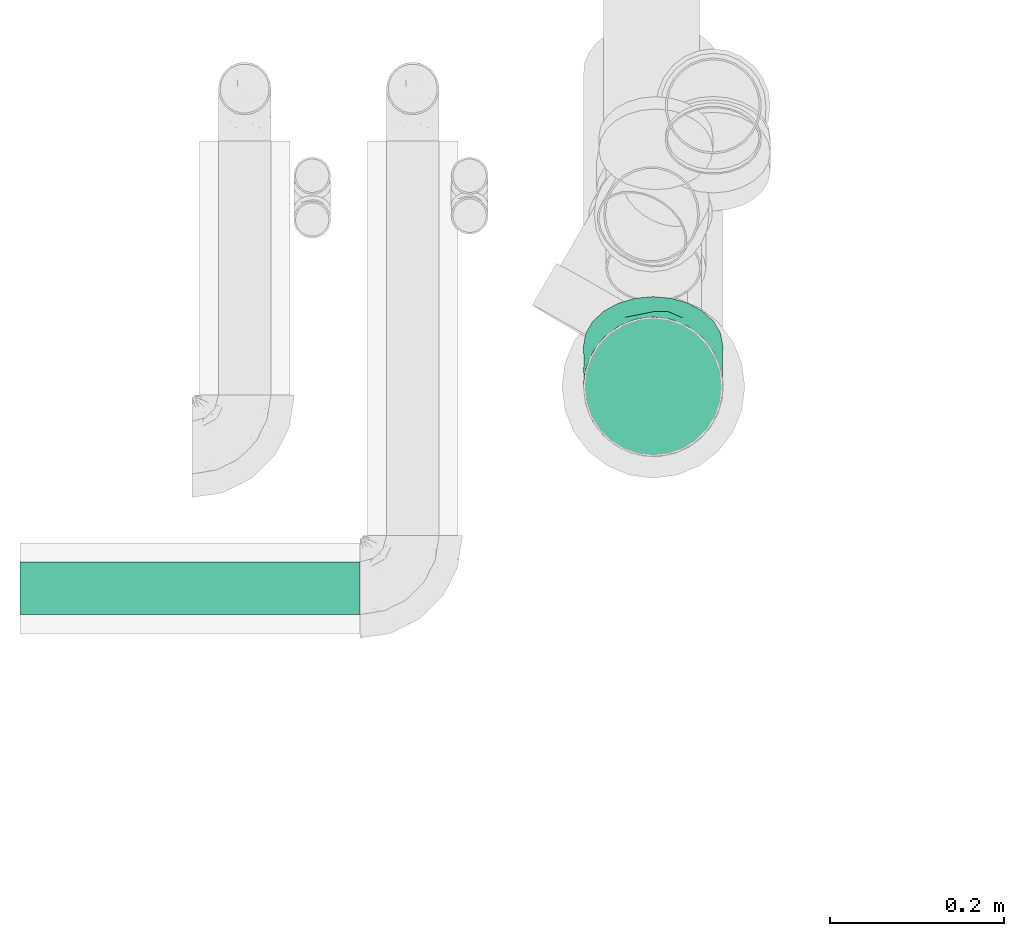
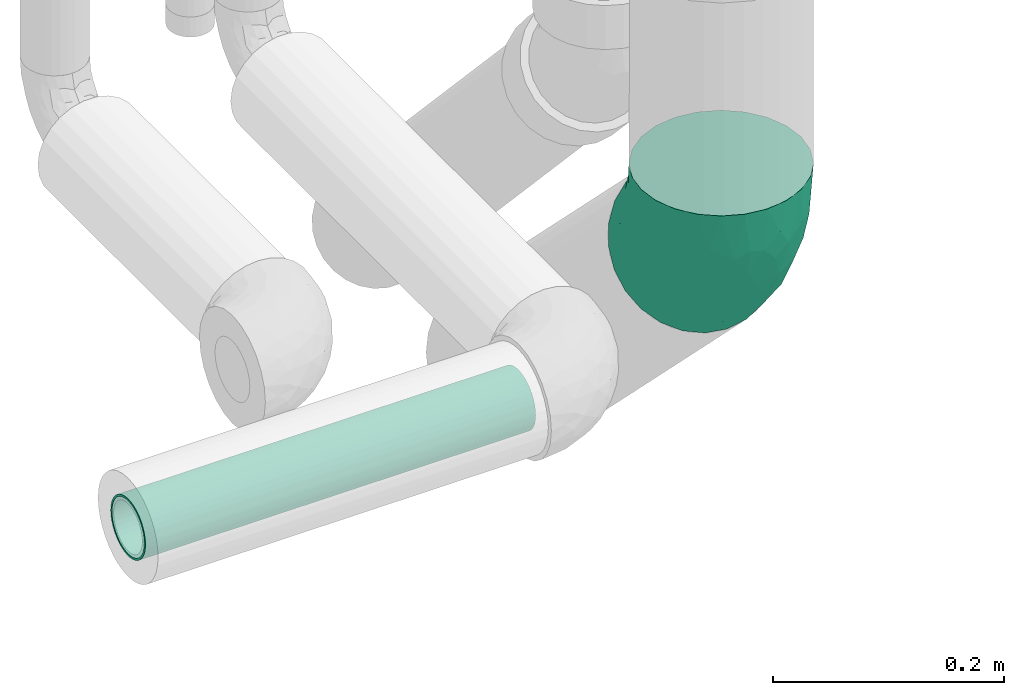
# One storey, part 53 of 78: 1 flow fitting, 1 flow segment.
"""IFC2X3 building model written with IfcOpenShell, lengths in millimetres."""

import ifcopenshell
import ifcopenshell.guid

model = None  # the IFC model being written
_history = None  # IfcOwnerHistory: only IFC2X3 demands one
_inside = {}  # id of a spatial element -> (the spatial element, [elements in it])
_under = {}  # id of a project, library or spatial element -> (it, [spatial elements below it])
_declared = {}  # id of a project -> (the project, [libraries it declares])
_typed = {}  # id of a type object -> (the type object, [elements of that type])
_made_of = {}  # id of a material, layer set ... -> (it, [elements and type objects made of it])


def new_model(schema):
    """Start an empty IFC model of exactly this schema.

    Asked for "IFC4X3", IfcOpenShell would pick the latest addendum, in which some entities
    have other attributes; the version numbers below select the first issue.
    IFC2X3 requires an IfcOwnerHistory on every rooted entity: one is made here for all.
    """
    global model, _history
    if schema == "IFC4X3":
        model = ifcopenshell.file(schema_version=(4, 3, 0, 0))
    else:
        model = ifcopenshell.file(schema=schema)
    _inside.clear()
    _under.clear()
    _declared.clear()
    _typed.clear()
    _made_of.clear()
    _history = None
    if model.schema == "IFC2X3":
        org = make("IfcOrganization", Name="unknown")
        user = make(
            "IfcPersonAndOrganization",
            ThePerson=make("IfcPerson", FamilyName="unknown"),
            TheOrganization=org,
        )
        app = make(
            "IfcApplication",
            ApplicationDeveloper=org,
            Version="unknown",
            ApplicationFullName="unknown",
            ApplicationIdentifier="unknown",
        )
        _history = make(
            "IfcOwnerHistory",
            OwningUser=user,
            OwningApplication=app,
            ChangeAction="ADDED",
            CreationDate=0,
        )
    return model


def make(cls, **values):
    """One entity of the class cls with the attributes given. An attribute that is None is left unset."""
    return model.create_entity(
        cls, **{name: value for name, value in values.items() if value is not None}
    )


def entity(cls, *values):
    """Any entity or typed value of the class cls, its attributes in the order of the schema. None: left unset."""
    e = model.create_entity(cls)
    for i, value in enumerate(values):
        if value is not None:
            e[i] = value
    return e


def rooted(cls, **values):
    """An entity with a GlobalId (a new one), such as an element, a storey or a relation."""
    return make(cls, GlobalId=ifcopenshell.guid.new(), OwnerHistory=_history, **values)


def si_unit(unit_type, name, prefix=None):
    """IfcSIUnit, for example si_unit("LENGTHUNIT", "METRE", prefix="MILLI")."""
    return make("IfcSIUnit", UnitType=unit_type, Prefix=prefix, Name=name)


def converted_unit(unit_type, name, factor, base, dimensions=None, offset=None):
    """IfcConversionBasedUnit, such as the inch: factor (a typed value) times the base unit."""
    return make(
        "IfcConversionBasedUnit"
        if offset is None
        else "IfcConversionBasedUnitWithOffset",
        ConversionOffset=offset,
        Dimensions=None
        if dimensions is None
        else entity("IfcDimensionalExponents", *dimensions),
        UnitType=unit_type,
        Name=name,
        ConversionFactor=make(
            "IfcMeasureWithUnit", ValueComponent=factor, UnitComponent=base
        ),
    )


def derived_unit(unit_type, elements):
    """IfcDerivedUnit: a product of units, each with its exponent."""
    return make(
        "IfcDerivedUnit",
        Elements=[
            make("IfcDerivedUnitElement", Unit=unit, Exponent=power)
            for unit, power in elements
        ],
        UnitType=unit_type,
    )


def assignment(units):
    """IfcUnitAssignment: the units of a project."""
    return None if units is None else make("IfcUnitAssignment", Units=units)


def point(xyz):
    """IfcCartesianPoint."""
    return None if xyz is None else make("IfcCartesianPoint", Coordinates=xyz)


def direction(xyz):
    """IfcDirection."""
    return None if xyz is None else make("IfcDirection", DirectionRatios=xyz)


def frame(location, z_axis=None, x_axis=None):
    """IfcAxis2Placement3D, a coordinate frame: its origin and axes. An axis left out is left unset."""
    return make(
        "IfcAxis2Placement3D",
        Location=point(location),
        Axis=direction(z_axis),
        RefDirection=direction(x_axis),
    )


def origin_with_axes():
    """The frame at (0, 0, 0) with the z axis (0, 0, 1) and the x axis (1, 0, 0) written out."""
    return frame((0.0, 0.0, 0.0), z_axis=(0.0, 0.0, 1.0), x_axis=(1.0, 0.0, 0.0))


def place(relative_to, where):
    """IfcLocalPlacement: puts the frame where relative to a parent placement (None: the world)."""
    return make(
        "IfcLocalPlacement", PlacementRelTo=relative_to, RelativePlacement=where
    )


def context(
    kind, dimensions, precision=None, world=None, true_north=None, identifier=None
):
    """IfcGeometricRepresentationContext, for example the 3D "Model" context."""
    return make(
        "IfcGeometricRepresentationContext",
        ContextIdentifier=identifier,
        ContextType=kind,
        CoordinateSpaceDimension=dimensions,
        Precision=precision,
        WorldCoordinateSystem=world,
        TrueNorth=true_north,
    )


def subcontext(parent, identifier, kind, view, scale=None):
    """IfcGeometricRepresentationSubContext, for example "Body" below "Model"."""
    return make(
        "IfcGeometricRepresentationSubContext",
        ContextIdentifier=identifier,
        ContextType=kind,
        ParentContext=parent,
        TargetScale=scale,
        TargetView=view,
    )


def project(units=None, contexts=None):
    """IfcProject with its units and contexts."""
    return rooted(
        "IfcProject",
        Name="project",
        RepresentationContexts=contexts,
        UnitsInContext=assignment(units),
    )


def spatial(cls, under=None, at=None, **own):
    """A site, building, storey or space (cls), placed at a placement, below another one or the project."""
    s = rooted(cls, ObjectPlacement=at, **own)
    if under is not None:
        _under.setdefault(under.id(), (under, []))[1].append(s)
    return s


def faces_of(points, faces, orient=None, outer=None):
    """IfcFace entities. A face is a list of loops; a loop is a list of indices into points, from 0.

    orient and outer hold one flag for each loop. By default every Orientation is true, the
    first loop of a face is its IfcFaceOuterBound and the others are IfcFaceBound.
    """
    made = []
    for i, loops in enumerate(faces):
        bounds = []
        for j, loop in enumerate(loops):
            is_outer = j == 0 if outer is None else outer[i][j]
            bounds.append(
                make(
                    "IfcFaceOuterBound" if is_outer else "IfcFaceBound",
                    Bound=make("IfcPolyLoop", Polygon=[points[k] for k in loop]),
                    Orientation=True if orient is None else orient[i][j],
                )
            )
        made.append(make("IfcFace", Bounds=bounds))
    return made


def open_shell(faces, orient=None, outer=None):
    """The faces of one IfcOpenShell. surface_model builds it on its shared points."""
    return ("IfcOpenShell", faces, orient, outer)


def faceted_brep(points, faces, orient=None, outer=None, voids=None):
    """IfcFacetedBrep: a solid bounded by flat faces; with voids (closed shells), ...WithVoids."""
    shared = [point(p) for p in points]
    hull = make("IfcClosedShell", CfsFaces=faces_of(shared, faces, orient, outer))
    if voids is None:
        return make("IfcFacetedBrep", Outer=hull)
    return make(
        "IfcFacetedBrepWithVoids",
        Outer=hull,
        Voids=[
            make(cls, CfsFaces=faces_of(shared, fs, o, b)) for cls, fs, o, b in voids
        ],
    )


def surface_model(cls, points, shells):
    """IfcFaceBasedSurfaceModel or IfcShellBasedSurfaceModel (cls): surfaces that need not close."""
    shared = [point(p) for p in points]
    made = [make(c, CfsFaces=faces_of(shared, fs, o, b)) for c, fs, o, b in shells]
    if cls == "IfcFaceBasedSurfaceModel":
        return make(cls, FbsmFaces=made)
    return make(cls, SbsmBoundary=made)


def shape(context_of_items, identifier, shape_type, items):
    """IfcShapeRepresentation: the items that make up one representation, for example the "Body"."""
    return make(
        "IfcShapeRepresentation",
        ContextOfItems=context_of_items,
        RepresentationIdentifier=identifier,
        RepresentationType=shape_type,
        Items=items,
    )


def source(mapping_origin, context_of_items, identifier, shape_type, items):
    """IfcRepresentationMap: a shape defined once, which mapped items show again and again."""
    return make(
        "IfcRepresentationMap",
        MappingOrigin=mapping_origin,
        MappedRepresentation=shape(context_of_items, identifier, shape_type, items),
    )


def transform(
    local_origin,
    x_axis=None,
    y_axis=None,
    z_axis=None,
    scale=None,
    scale2=None,
    scale3=None,
    uniform=True,
):
    """IfcCartesianTransformationOperator3D, or its non-uniform kind. x_axis, y_axis, z_axis: its Axis1, 2, 3."""
    if uniform:
        return make(
            "IfcCartesianTransformationOperator3D",
            Axis1=direction(x_axis),
            Axis2=direction(y_axis),
            LocalOrigin=point(local_origin),
            Scale=scale,
            Axis3=direction(z_axis),
        )
    return make(
        "IfcCartesianTransformationOperator3DnonUniform",
        Axis1=direction(x_axis),
        Axis2=direction(y_axis),
        LocalOrigin=point(local_origin),
        Scale=scale,
        Axis3=direction(z_axis),
        Scale2=scale2,
        Scale3=scale3,
    )


def mapped(mapping_source, mapping_target):
    """IfcMappedItem: shows the shape of a source again, moved by a transform."""
    return make(
        "IfcMappedItem", MappingSource=mapping_source, MappingTarget=mapping_target
    )


def made_of(thing, what):
    """Note that an element or type object is made of a material, layer set ...; save() writes the relation."""
    if what is not None:
        _made_of.setdefault(what.id(), (what, []))[1].append(thing)
    return thing


def type_object(cls, material=None, **own):
    """A type object (cls), such as IfcWallType, which elements share."""
    return made_of(rooted(cls, **own), material)


def element(
    cls,
    number,
    at=None,
    inside=None,
    cuts=None,
    type_object=None,
    material=None,
    context=None,
    identifier="Body",
    shape_type=None,
    held_by="IfcProductDefinitionShape",
    body=None,
    shapes=None,
    **own,
):
    """One element of the class cls, such as IfcWall. Its Tag is "e" and its number.

    at: its placement. inside: the storey or other place that contains it. cuts: it is an
    opening in that element (IfcRelVoidsElement). A single representation is given by context,
    identifier, shape_type and body (its items); several are given by shapes. held_by: the class
    of the entity that holds the representations. save() writes the other relations.
    """
    e = rooted(cls, Tag="e%d" % number, ObjectPlacement=at, **own)
    if body is not None:
        shapes = [shape(context, identifier, shape_type, body)]
    if shapes is not None:
        e.Representation = make(held_by, Representations=shapes)
    if inside is not None:
        _inside.setdefault(inside.id(), (inside, []))[1].append(e)
    if cuts is not None:
        rooted(
            "IfcRelVoidsElement", RelatingBuildingElement=cuts, RelatedOpeningElement=e
        )
    if type_object is not None:
        _typed.setdefault(type_object.id(), (type_object, []))[1].append(e)
    return made_of(e, material)


def aggregate(whole, parts):
    """IfcRelAggregates: a whole, such as a stair, and the parts it consists of."""
    return rooted("IfcRelAggregates", RelatingObject=whole, RelatedObjects=parts)


def save(model, path):
    """Write the relations noted so far, then the file.

    IfcRelAggregates (storeys below a building ...), IfcRelContainedInSpatialStructure (elements
    in a storey), IfcRelDefinesByType, IfcRelAssociatesMaterial and IfcRelDeclares: one each for
    every whole, place, type object, material and project.
    """
    for whole, parts in _under.values():
        aggregate(whole, parts)
    for where, things in _inside.values():
        rooted(
            "IfcRelContainedInSpatialStructure",
            RelatedElements=things,
            RelatingStructure=where,
        )
    for kind, things in _typed.values():
        rooted("IfcRelDefinesByType", RelatedObjects=things, RelatingType=kind)
    for what, things in _made_of.values():
        rooted("IfcRelAssociatesMaterial", RelatedObjects=things, RelatingMaterial=what)
    for by, libraries in _declared.values():
        rooted("IfcRelDeclares", RelatingContext=by, RelatedDefinitions=libraries)
    model.write(path)


model = new_model("IFC2X3")

# Units and contexts
model_context = context("Model", 3, precision=0.01, world=frame((0.0, 4.29681676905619e-09, 0.0)), true_north=direction((4.01073788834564e-13, 1.0)))
plan_context = context("Plan", 3, precision=0.01, world=frame((0.0, 4.29681676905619e-09, 0.0)), true_north=direction((4.01073788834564e-13, 1.0)))
body_context = subcontext(model_context, "Body", "Model", "MODEL_VIEW")
ifc_project = project(units=[converted_unit("PLANEANGLEUNIT", "DEGREE", entity("IfcPositiveLengthMeasure", 0.0174532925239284), si_unit("PLANEANGLEUNIT", "RADIAN"), dimensions=[0, 0, 0, 0, 0, 0, 0]), si_unit("AREAUNIT", "SQUARE_METRE"), si_unit("LENGTHUNIT", "METRE", prefix="MILLI"), si_unit("MASSUNIT", "GRAM", prefix="KILO"), si_unit("POWERUNIT", "WATT"), si_unit("PRESSUREUNIT", "PASCAL"), si_unit("FORCEUNIT", "NEWTON", prefix="KILO"), si_unit("ELECTRICVOLTAGEUNIT", "VOLT"), si_unit("ELECTRICCURRENTUNIT", "AMPERE"), si_unit("THERMODYNAMICTEMPERATUREUNIT", "DEGREE_CELSIUS"), si_unit("TIMEUNIT", "SECOND"), si_unit("VOLUMEUNIT", "CUBIC_METRE"), derived_unit("LINEARVELOCITYUNIT", [(si_unit("LENGTHUNIT", "METRE"), 1), (si_unit("TIMEUNIT", "SECOND"), -1)]), derived_unit("VOLUMETRICFLOWRATEUNIT", [(si_unit("VOLUMEUNIT", "CUBIC_METRE"), 1), (si_unit("TIMEUNIT", "SECOND"), -1)]), derived_unit("THERMALTRANSMITTANCEUNIT", [(si_unit("POWERUNIT", "WATT"), 1), (si_unit("THERMODYNAMICTEMPERATUREUNIT", "KELVIN"), -1), (si_unit("AREAUNIT", "SQUARE_METRE"), -1)]), derived_unit("SOUNDPRESSUREUNIT", [(si_unit("PRESSUREUNIT", "PASCAL"), 1)])], contexts=[model_context, plan_context])

# Site, building, storey
site_placement = place(None, frame((0.0, -4.29681676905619e-09, 0.0), z_axis=(0.0, 0.0, 1.0), x_axis=(1.0, 0.0, 0.0)))
site = spatial("IfcSite", under=ifc_project, at=site_placement, Name="ENGM", CompositionType="ELEMENT")
building_placement = place(site_placement, frame((0.0, 4.29681676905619e-09, 0.0), z_axis=(0.0, 0.0, 1.0), x_axis=(1.0, 0.0, 0.0)))
building = spatial("IfcBuilding", under=site, at=building_placement, Name="TH", CompositionType="ELEMENT")
storey_placement = place(building_placement, frame((0.0, 0.0, 205200.0), z_axis=(0.0, 0.0, 1.0), x_axis=(1.0, 0.0, 0.0)))
storey = spatial("IfcBuildingStorey", under=building, at=storey_placement, Name="Nivå D + 1,2 m", CompositionType="ELEMENT", Elevation=205200.0)

# Flow fitting
pipe_fitting_type = type_object("IfcPipeFittingType", Name="magi_pipe_fe_elbow_short_001", PredefinedType="BEND")
shared_shape = source(origin_with_axes(), body_context, "Body", "SurfaceModel", [
    surface_model("IfcShellBasedSurfaceModel", [(-66.26624, 20.70552, -77.27406), (-66.26624, 0.0, -80.0), (-66.26624, 56.56854, -56.56854), (-66.26624, 40.0, -69.28203), (-66.26624, 77.27406, -20.70552), (-66.26624, 69.28203, -40.0), (-66.26624, -56.56854, -56.56854), (-66.26624, -80.0, 0.0), (-66.26624, 69.28203, 40.0), (-66.26624, -40.0, -69.28203), (-66.26624, -20.70552, -77.27406), (-66.26624, -77.27406, -20.70552), (-66.26624, -69.28203, -40.0), (-66.26624, 80.0, 0.0), (-66.26624, 77.27406, 20.70552), (-66.26624, 20.70552, 77.27406), (-66.26624, 40.0, 69.28203), (-66.26624, 56.56854, 56.56854), (-66.26624, -56.56854, 56.56854), (-66.26624, -77.27406, 20.70552), (-66.26624, -69.28203, 40.0), (-66.26624, -40.0, 69.28203), (-66.26624, -20.70552, 77.27406), (-66.26624, 0.0, 80.0), (6.86466, 86.85673, -56.56854), (46.86127, 46.85334, -80.0), (32.2215, 61.4956, -77.27406), (18.57939, 75.14, -69.28203), (-2.12438, 95.84728, 40.0), (103.42503, -9.71999, 0.0), (-2.12438, 95.84728, -40.0), (-9.70248, 103.42667, 0.0), (75.14315, 18.56667, -69.28203), (95.84692, -2.1406, -40.0), (86.85789, 6.84995, -56.56854), (61.50105, 32.21108, -77.27406), (101.49767, -7.7923, -20.70552), (-7.77512, 101.49898, -20.70552), (-7.77512, 101.49898, 20.70552), (32.2215, 61.4956, 77.27406), (18.57939, 75.14, 69.28203), (6.86466, 86.85673, 56.56854), (61.50105, 32.21108, 77.27406), (86.85789, 6.84995, 56.56854), (95.84692, -2.1406, 40.0), (101.49767, -7.7923, 20.70552), (75.14315, 18.56667, 69.28203), (46.86127, 46.85334, 80.0), (20.53681, -49.58618, 43.94331), (-18.88675, -45.75735, 61.51834), (-28.10464, -61.70386, 46.68669), (-34.33255, -76.37217, 15.31939), (-19.44954, -75.38946, 0.0), (42.93317, 1.14101, 72.97983), (-31.16765, -29.54888, 72.97983), (8.44424, -20.38863, 71.81637), (-32.21677, 32.65539, 74.87177), (-25.20915, -8.32449, 78.89352), (-7.39032, 17.84394, 79.76448), (-39.53021, 10.89558, 79.54528), (20.25076, 35.65471, 79.54528), (63.50219, -23.76361, 46.68669), (-15.36857, -69.57894, 27.42235), (-47.47569, 49.07164, 64.37832), (-4.71647, -70.89326, 12.88084), (23.62796, -58.07175, 25.36198), (-37.01677, 66.40504, 50.62905), (-32.89329, 79.42093, 33.20512), (-30.74766, 86.28599, 16.99014), (14.08434, -34.00667, 62.45988), (45.70867, -19.00425, 61.51834), (-22.57366, 54.50416, 65.58251), (69.34349, -36.42469, 14.42113), (60.06371, -38.33761, 27.42235), (45.58305, -51.15245, 12.93783), (-1.12273, 68.26936, 64.37832), (23.71287, 11.93725, 78.89352), (1.50323, 47.12054, 74.81223), (-13.7887, 73.1962, 54.49757), (-35.65469, 86.08834, 0.0), (25.5684, -61.73498, 0.0), (67.05795, -39.56117, 0.0), (-25.20915, -8.32449, -78.89352), (60.06371, -38.33761, -27.42235), (78.27755, -29.73313, -15.31939), (53.46019, -46.79859, -12.88084), (23.71287, 11.93725, -78.89352), (-39.53021, 10.89558, -79.54528), (-42.00225, 61.51117, -54.49758), (-32.89329, 79.42093, -33.20512), (45.70867, -19.00425, -61.51834), (-20.77446, 73.13202, -50.62905), (-39.26452, 82.7586, -16.99014), (-0.30627, 45.87157, -74.87177), (-23.28343, -74.78743, -14.42113), (-15.36857, -69.57894, -27.42235), (3.93237, -68.40266, -12.93782), (-34.37947, 32.25922, -74.81223), (-18.88675, -45.75735, -61.51834), (-28.10464, -61.70386, -46.68669), (8.44424, -20.38863, -71.81637), (-22.57367, 54.50416, -65.58251), (-47.47569, 49.07164, -64.37832), (24.35054, -57.77248, -25.36198), (-7.39032, 17.84393, -79.76448), (14.08434, -34.00668, -62.45988), (20.53681, -49.58619, -43.94331), (-31.16765, -29.54888, -72.97983), (-1.12273, 68.26935, -64.37832), (20.25076, 35.65471, -79.54528), (42.93317, 1.14101, -72.97983), (63.50219, -23.76361, -46.68669)], [open_shell([[[0, 1, 2]], [[3, 0, 2]], [[4, 5, 2]], [[6, 2, 1]], [[2, 7, 8]], [[9, 6, 10]], [[6, 1, 10]], [[11, 7, 12]], [[6, 12, 7]], [[6, 7, 2]], [[13, 4, 2]], [[8, 14, 13]], [[7, 15, 8]], [[8, 15, 16]], [[17, 8, 16]], [[18, 15, 7]], [[19, 20, 7]], [[7, 20, 18]], [[21, 22, 18]], [[22, 15, 18]], [[15, 22, 23]], [[8, 13, 2]], [[24, 25, 26]], [[24, 26, 27]], [[28, 29, 24]], [[25, 24, 29]], [[24, 30, 31]], [[32, 33, 34]], [[29, 32, 35]], [[33, 29, 36]], [[29, 33, 32]], [[35, 25, 29]], [[30, 37, 31]], [[31, 38, 28]], [[28, 39, 29]], [[40, 39, 28]], [[40, 28, 41]], [[42, 29, 39]], [[29, 43, 44]], [[45, 29, 44]], [[46, 43, 29]], [[42, 46, 29]], [[47, 42, 39]], [[31, 28, 24]], [[48, 49, 50]], [[51, 7, 52]], [[46, 42, 53]], [[21, 18, 49]], [[54, 49, 55]], [[50, 49, 18]], [[16, 15, 56]], [[22, 21, 54]], [[57, 58, 59]], [[47, 39, 60]], [[44, 43, 61]], [[23, 22, 57]], [[19, 51, 62]], [[17, 16, 63]], [[62, 64, 65]], [[8, 66, 67]], [[15, 23, 59]], [[62, 51, 64]], [[18, 20, 50]], [[67, 68, 14]], [[19, 62, 20]], [[13, 14, 68]], [[14, 8, 67]], [[69, 48, 70]], [[63, 56, 71]], [[72, 73, 74]], [[48, 62, 65]], [[40, 41, 75]], [[43, 46, 70]], [[63, 66, 17]], [[45, 44, 73]], [[47, 60, 76]], [[48, 61, 70]], [[43, 70, 61]], [[20, 62, 50]], [[70, 46, 53]], [[48, 50, 62]], [[29, 45, 72]], [[73, 44, 61]], [[58, 60, 77]], [[28, 38, 67]], [[67, 78, 28]], [[61, 48, 73]], [[67, 38, 68]], [[8, 17, 66]], [[79, 68, 31]], [[53, 76, 55]], [[71, 56, 77]], [[76, 57, 55]], [[40, 77, 39]], [[57, 76, 58]], [[67, 66, 78]], [[42, 47, 76]], [[54, 57, 22]], [[59, 56, 15]], [[73, 65, 74]], [[71, 75, 78]], [[49, 69, 55]], [[77, 40, 75]], [[58, 77, 56]], [[49, 54, 21]], [[57, 54, 55]], [[76, 53, 42]], [[70, 53, 55]], [[57, 59, 23]], [[56, 59, 58]], [[77, 60, 39]], [[76, 60, 58]], [[56, 63, 16]], [[66, 63, 71]], [[78, 75, 41]], [[77, 75, 71]], [[28, 78, 41]], [[71, 78, 66]], [[7, 51, 19]], [[64, 51, 52]], [[52, 80, 64]], [[80, 74, 65]], [[80, 65, 64]], [[73, 48, 65]], [[80, 81, 74]], [[72, 74, 81]], [[29, 72, 81]], [[45, 73, 72]], [[48, 69, 49]], [[70, 55, 69]], [[31, 68, 38]], [[68, 79, 13]], [[82, 10, 1]], [[83, 84, 85]], [[25, 35, 86]], [[0, 87, 1]], [[88, 5, 89]], [[32, 34, 90]], [[91, 88, 89]], [[36, 83, 33]], [[4, 92, 89]], [[27, 26, 93]], [[94, 95, 96]], [[3, 97, 0]], [[6, 98, 99]], [[82, 86, 100]], [[7, 11, 94]], [[101, 102, 88]], [[103, 96, 95]], [[104, 87, 97]], [[6, 9, 98]], [[105, 106, 98]], [[86, 82, 104]], [[95, 11, 12]], [[107, 9, 10]], [[6, 99, 12]], [[37, 30, 89]], [[30, 24, 91]], [[13, 79, 92]], [[108, 91, 24]], [[31, 37, 92]], [[109, 93, 26]], [[24, 27, 108]], [[89, 5, 4]], [[30, 91, 89]], [[107, 98, 9]], [[101, 108, 93]], [[87, 82, 1]], [[101, 93, 97]], [[2, 102, 3]], [[36, 84, 83]], [[109, 26, 25]], [[110, 35, 32]], [[83, 85, 103]], [[34, 111, 90]], [[100, 110, 90]], [[34, 33, 111]], [[104, 109, 86]], [[111, 106, 90]], [[110, 86, 35]], [[81, 84, 29]], [[106, 111, 83]], [[107, 82, 100]], [[83, 103, 106]], [[99, 106, 95]], [[90, 105, 100]], [[106, 99, 98]], [[37, 89, 92]], [[95, 12, 99]], [[33, 83, 111]], [[97, 3, 102]], [[104, 97, 93]], [[82, 107, 10]], [[98, 107, 100]], [[90, 110, 32]], [[86, 110, 100]], [[97, 87, 0]], [[82, 87, 104]], [[86, 109, 25]], [[93, 109, 104]], [[88, 102, 2]], [[97, 102, 101]], [[5, 88, 2]], [[101, 88, 91]], [[93, 108, 27]], [[91, 108, 101]], [[29, 84, 36]], [[85, 84, 81]], [[81, 80, 85]], [[80, 96, 103]], [[80, 103, 85]], [[95, 106, 103]], [[80, 52, 96]], [[94, 96, 52]], [[7, 94, 52]], [[11, 95, 94]], [[106, 105, 90]], [[98, 100, 105]], [[13, 92, 4]], [[92, 79, 31]]])]),
])
flow_fitting_placement = place(storey_placement, frame((895838.84516, 479825.62017, 4324.25988999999), z_axis=(0.999999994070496, -7.6999998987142e-05, -7.70065445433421e-05), x_axis=(-7.6999999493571e-05, 8.4999999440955e-05, -0.999999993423)))
element("IfcFlowFitting", 1, at=flow_fitting_placement, inside=storey, type_object=pipe_fitting_type, Name="magi_pipe_fe_elbow_short_001", context=body_context, shape_type="MappedRepresentation", body=[
    mapped(shared_shape, transform((0.0, 0.0, 0.0), scale=1.0)),
])

# Flow segment
pipe_segment_type = type_object("IfcPipeSegmentType", Name="Stålrør normaltykke", PredefinedType="RIGIDSEGMENT")
flow_segment_placement = place(storey_placement, frame((895502.41931, 479594.31945, 4400.0), z_axis=(0.0, 0.0, 1.0), x_axis=(-1.0, 0.0, 0.0)))
element("IfcFlowSegment", 2, at=flow_segment_placement, inside=storey, type_object=pipe_segment_type, Name="Stålrør normaltykke", context=body_context, shape_type="Brep", body=[
    faceted_brep([(390.513141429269, 28.1, 0.0), (390.513141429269, 27.673097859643, -4.87951379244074), (0.0, 27.673097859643, -4.87951379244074), (0.0, 28.1, 0.0), (390.513141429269, 26.405362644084, -9.61076602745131), (0.0, 26.405362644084, -9.61076602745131), (390.513141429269, 24.3353138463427, -14.05), (0.0, 24.3353138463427, -14.05), (390.513141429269, 21.5258488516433, -18.0623318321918), (0.0, 21.5258488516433, -18.0623318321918), (390.513141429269, 18.0623318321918, -21.5258488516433), (0.0, 18.0623318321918, -21.5258488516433), (390.513141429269, 14.05, -24.3353138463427), (0.0, 14.05, -24.3353138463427), (390.513141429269, 9.61076602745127, -26.405362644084), (0.0, 9.61076602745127, -26.405362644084), (390.513141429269, 4.87951379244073, -27.6730978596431), (0.0, 4.87951379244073, -27.6730978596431), (390.513141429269, -5.16188625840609e-15, -28.1), (0.0, -5.16188625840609e-15, -28.1), (390.513141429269, -4.87951379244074, -27.673097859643), (0.0, -4.87951379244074, -27.673097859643), (390.513141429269, -9.61076602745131, -26.405362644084), (0.0, -9.61076602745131, -26.405362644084), (390.513141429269, -14.05, -24.3353138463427), (0.0, -14.05, -24.3353138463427), (390.513141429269, -18.0623318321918, -21.5258488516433), (0.0, -18.0623318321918, -21.5258488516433), (390.513141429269, -21.5258488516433, -18.0623318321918), (0.0, -21.5258488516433, -18.0623318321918), (390.513141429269, -24.3353138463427, -14.05), (0.0, -24.3353138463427, -14.05), (390.513141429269, -26.405362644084, -9.61076602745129), (0.0, -26.405362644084, -9.61076602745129), (390.513141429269, -27.6730978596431, -4.87951379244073), (0.0, -27.6730978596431, -4.87951379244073), (390.513141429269, -28.1, 3.44125750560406e-15), (0.0, -28.1, 3.44125750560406e-15), (390.513141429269, -27.673097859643, 4.87951379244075), (0.0, -27.673097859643, 4.87951379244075), (390.513141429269, -26.405362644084, 9.6107660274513), (0.0, -26.405362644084, 9.6107660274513), (390.513141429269, -24.3353138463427, 14.05), (0.0, -24.3353138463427, 14.05), (390.513141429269, -21.5258488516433, 18.0623318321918), (0.0, -21.5258488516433, 18.0623318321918), (390.513141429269, -18.0623318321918, 21.5258488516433), (0.0, -18.0623318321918, 21.5258488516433), (390.513141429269, -14.05, 24.3353138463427), (0.0, -14.05, 24.3353138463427), (390.513141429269, -9.61076602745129, 26.405362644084), (0.0, -9.61076602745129, 26.405362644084), (390.513141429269, -4.87951379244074, 27.673097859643), (0.0, -4.87951379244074, 27.673097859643), (390.513141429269, 1.72062875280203e-15, 28.1), (0.0, 1.72062875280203e-15, 28.1), (390.513141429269, 4.87951379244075, 27.673097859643), (0.0, 4.87951379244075, 27.673097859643), (390.513141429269, 9.61076602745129, 26.405362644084), (0.0, 9.61076602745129, 26.405362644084), (390.513141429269, 14.05, 24.3353138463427), (0.0, 14.05, 24.3353138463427), (390.513141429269, 18.0623318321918, 21.5258488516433), (0.0, 18.0623318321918, 21.5258488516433), (390.513141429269, 21.5258488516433, 18.0623318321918), (0.0, 21.5258488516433, 18.0623318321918), (390.513141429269, 24.3353138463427, 14.05), (0.0, 24.3353138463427, 14.05), (390.513141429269, 26.405362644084, 9.61076602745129), (0.0, 26.405362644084, 9.61076602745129), (390.513141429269, 27.673097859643, 4.87951379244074), (0.0, 27.673097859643, 4.87951379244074), (390.513141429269, 29.6427133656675, -5.2268101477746), (390.513141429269, 30.1, 0.0), (0.0, 30.1, 0.0), (0.0, 29.6427133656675, -5.2268101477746), (390.513141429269, 29.6427133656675, 5.2268101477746), (0.0, 29.6427133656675, 5.2268101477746), (390.513141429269, 28.2847478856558, 10.2948063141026), (0.0, 28.2847478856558, 10.2948063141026), (390.513141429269, 26.0673646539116, 15.05), (0.0, 26.0673646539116, 15.05), (390.513141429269, 23.0579377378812, 19.3479070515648), (0.0, 23.0579377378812, 19.3479070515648), (390.513141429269, 19.3479070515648, 23.0579377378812), (0.0, 19.3479070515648, 23.0579377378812), (390.513141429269, 15.05, 26.0673646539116), (0.0, 15.05, 26.0673646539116), (390.513141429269, 10.2948063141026, 28.2847478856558), (0.0, 10.2948063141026, 28.2847478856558), (390.513141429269, 5.22681014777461, 29.6427133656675), (0.0, 5.22681014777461, 29.6427133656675), (390.513141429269, 1.84309343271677e-15, 30.1), (0.0, 1.84309343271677e-15, 30.1), (390.513141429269, -5.2268101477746, 29.6427133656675), (0.0, -5.2268101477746, 29.6427133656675), (390.513141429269, -10.2948063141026, 28.2847478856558), (0.0, -10.2948063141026, 28.2847478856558), (390.513141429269, -15.05, 26.0673646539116), (0.0, -15.05, 26.0673646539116), (390.513141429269, -19.3479070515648, 23.0579377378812), (0.0, -19.3479070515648, 23.0579377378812), (390.513141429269, -23.0579377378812, 19.3479070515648), (0.0, -23.0579377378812, 19.3479070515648), (390.513141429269, -26.0673646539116, 15.05), (0.0, -26.0673646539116, 15.05), (390.513141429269, -28.2847478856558, 10.2948063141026), (0.0, -28.2847478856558, 10.2948063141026), (390.513141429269, -29.6427133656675, 5.22681014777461), (0.0, -29.6427133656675, 5.22681014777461), (390.513141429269, -30.1, 3.68618686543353e-15), (0.0, -30.1, 3.68618686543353e-15), (390.513141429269, -29.6427133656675, -5.22681014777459), (0.0, -29.6427133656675, -5.22681014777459), (390.513141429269, -28.2847478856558, -10.2948063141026), (0.0, -28.2847478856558, -10.2948063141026), (390.513141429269, -26.0673646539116, -15.05), (0.0, -26.0673646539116, -15.05), (390.513141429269, -23.0579377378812, -19.3479070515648), (0.0, -23.0579377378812, -19.3479070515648), (390.513141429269, -19.3479070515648, -23.0579377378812), (0.0, -19.3479070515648, -23.0579377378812), (390.513141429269, -15.05, -26.0673646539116), (0.0, -15.05, -26.0673646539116), (390.513141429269, -10.2948063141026, -28.2847478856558), (0.0, -10.2948063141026, -28.2847478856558), (390.513141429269, -5.2268101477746, -29.6427133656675), (0.0, -5.2268101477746, -29.6427133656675), (390.513141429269, -5.5292802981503e-15, -30.1), (0.0, -5.5292802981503e-15, -30.1), (390.513141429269, 5.22681014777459, -29.6427133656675), (0.0, 5.22681014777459, -29.6427133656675), (390.513141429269, 10.2948063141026, -28.2847478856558), (0.0, 10.2948063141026, -28.2847478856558), (390.513141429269, 15.05, -26.0673646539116), (0.0, 15.05, -26.0673646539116), (390.513141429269, 19.3479070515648, -23.0579377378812), (0.0, 19.3479070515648, -23.0579377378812), (390.513141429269, 23.0579377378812, -19.3479070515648), (0.0, 23.0579377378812, -19.3479070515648), (390.513141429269, 26.0673646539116, -15.05), (0.0, 26.0673646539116, -15.05), (390.513141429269, 28.2847478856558, -10.2948063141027), (0.0, 28.2847478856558, -10.2948063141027)], [[[0, 1, 2, 3]], [[1, 4, 5, 2]], [[4, 6, 7, 5]], [[6, 8, 9, 7]], [[8, 10, 11, 9]], [[10, 12, 13, 11]], [[12, 14, 15, 13]], [[14, 16, 17, 15]], [[16, 18, 19, 17]], [[18, 20, 21, 19]], [[20, 22, 23, 21]], [[22, 24, 25, 23]], [[24, 26, 27, 25]], [[26, 28, 29, 27]], [[28, 30, 31, 29]], [[30, 32, 33, 31]], [[32, 34, 35, 33]], [[34, 36, 37, 35]], [[36, 38, 39, 37]], [[38, 40, 41, 39]], [[40, 42, 43, 41]], [[42, 44, 45, 43]], [[44, 46, 47, 45]], [[46, 48, 49, 47]], [[48, 50, 51, 49]], [[50, 52, 53, 51]], [[52, 54, 55, 53]], [[54, 56, 57, 55]], [[56, 58, 59, 57]], [[58, 60, 61, 59]], [[60, 62, 63, 61]], [[62, 64, 65, 63]], [[64, 66, 67, 65]], [[66, 68, 69, 67]], [[68, 70, 71, 69]], [[70, 0, 3, 71]], [[72, 73, 74, 75]], [[73, 76, 77, 74]], [[76, 78, 79, 77]], [[78, 80, 81, 79]], [[80, 82, 83, 81]], [[82, 84, 85, 83]], [[84, 86, 87, 85]], [[86, 88, 89, 87]], [[88, 90, 91, 89]], [[90, 92, 93, 91]], [[92, 94, 95, 93]], [[94, 96, 97, 95]], [[96, 98, 99, 97]], [[98, 100, 101, 99]], [[100, 102, 103, 101]], [[102, 104, 105, 103]], [[104, 106, 107, 105]], [[106, 108, 109, 107]], [[108, 110, 111, 109]], [[110, 112, 113, 111]], [[112, 114, 115, 113]], [[114, 116, 117, 115]], [[116, 118, 119, 117]], [[118, 120, 121, 119]], [[120, 122, 123, 121]], [[122, 124, 125, 123]], [[124, 126, 127, 125]], [[126, 128, 129, 127]], [[128, 130, 131, 129]], [[130, 132, 133, 131]], [[132, 134, 135, 133]], [[134, 136, 137, 135]], [[136, 138, 139, 137]], [[138, 140, 141, 139]], [[140, 142, 143, 141]], [[142, 72, 75, 143]], [[75, 74, 77, 79, 81, 83, 85, 87, 89, 91, 93, 95, 97, 99, 101, 103, 105, 107, 109, 111, 113, 115, 117, 119, 121, 123, 125, 127, 129, 131, 133, 135, 137, 139, 141, 143], [3, 2, 5, 7, 9, 11, 13, 15, 17, 19, 21, 23, 25, 27, 29, 31, 33, 35, 37, 39, 41, 43, 45, 47, 49, 51, 53, 55, 57, 59, 61, 63, 65, 67, 69, 71]], [[142, 140, 138, 136, 134, 132, 130, 128, 126, 124, 122, 120, 118, 116, 114, 112, 110, 108, 106, 104, 102, 100, 98, 96, 94, 92, 90, 88, 86, 84, 82, 80, 78, 76, 73, 72], [70, 68, 66, 64, 62, 60, 58, 56, 54, 52, 50, 48, 46, 44, 42, 40, 38, 36, 34, 32, 30, 28, 26, 24, 22, 20, 18, 16, 14, 12, 10, 8, 6, 4, 1, 0]]], orient=[[False], [False], [False], [False], [False], [False], [False], [False], [False], [False], [False], [False], [False], [False], [False], [False], [False], [False], [False], [False], [False], [False], [False], [False], [False], [False], [False], [False], [False], [False], [False], [False], [False], [False], [False], [False], [False], [False], [False], [False], [False], [False], [False], [False], [False], [False], [False], [False], [False], [False], [False], [False], [False], [False], [False], [False], [False], [False], [False], [False], [False], [False], [False], [False], [False], [False], [False], [False], [False], [False], [False], [False], [False, False], [False, False]]),
])

save(model, "model.ifc")
